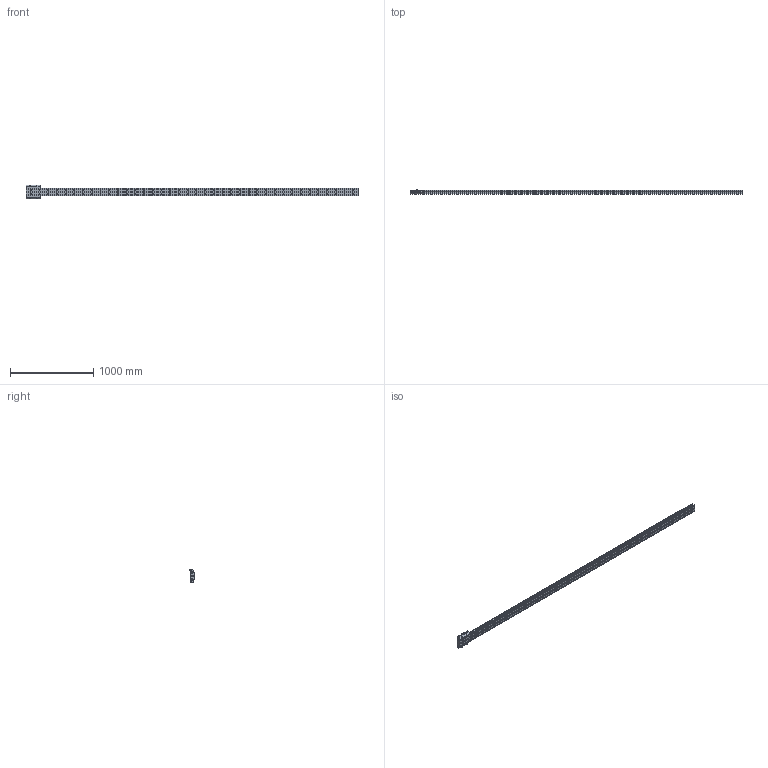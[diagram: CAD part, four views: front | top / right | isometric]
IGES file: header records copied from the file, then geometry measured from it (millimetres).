
Start section: Data from Parasolid IGES Translator 25.0.145, Copyright(c) 2006 Siemens PLM Software. All Rights Reserved.
Global section: file name: FDC45 84369AN_4000-0-0.igs; native system: By Siemens PLM Incorporated; preprocessor: XPlus GENERIC/IGES 25.0.145; author: Noname; organization: Noname; date: 20220623.024620; units: millimetre
Bounding box: 4000 x 53.5 x 164.8 mm (x, y, z)
Surface area: 1725440.5 mm2 (no closed solid volume)
Topology: 0 solids, 0 shells, 670 faces, 3400 edges, 3069 vertices
Faces by surface type: extrusion 434, revolution 236
